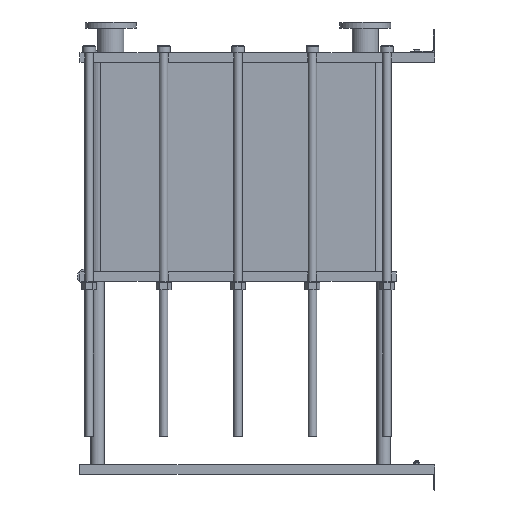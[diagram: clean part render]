
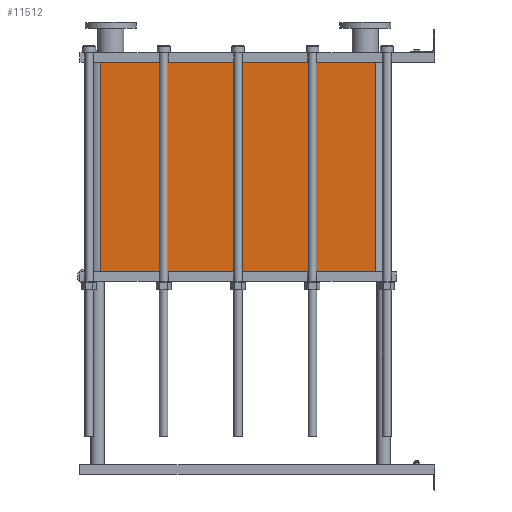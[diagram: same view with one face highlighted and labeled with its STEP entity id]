
A CAD part, left-side view. The second image highlights one B-rep face of the part: STEP entity #11512.
In plain terms, the highlighted planar face has unit normal (-1, 0, 0).
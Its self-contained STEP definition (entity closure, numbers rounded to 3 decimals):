
#1129=LINE('',#23232,#2102);
#1130=LINE('',#23236,#2103);
#1131=LINE('',#23238,#2104);
#1132=LINE('',#23239,#2105);
#2102=VECTOR('',#15887,10.);
#2103=VECTOR('',#15892,10.);
#2104=VECTOR('',#15893,10.);
#2105=VECTOR('',#15894,10.);
#3267=FACE_OUTER_BOUND('',#4093,.T.);
#4093=EDGE_LOOP('',(#10103,#10104,#10105,#10106));
#5642=VERTEX_POINT('',#23229);
#5643=VERTEX_POINT('',#23231);
#5644=VERTEX_POINT('',#23235);
#5645=VERTEX_POINT('',#23237);
#7159=EDGE_CURVE('',#5643,#5642,#1129,.T.);
#7161=EDGE_CURVE('',#5642,#5644,#1130,.T.);
#7162=EDGE_CURVE('',#5645,#5644,#1131,.T.);
#7163=EDGE_CURVE('',#5645,#5643,#1132,.T.);
#10103=ORIENTED_EDGE('',*,*,#7161,.T.);
#10104=ORIENTED_EDGE('',*,*,#7162,.F.);
#10105=ORIENTED_EDGE('',*,*,#7163,.T.);
#10106=ORIENTED_EDGE('',*,*,#7159,.T.);
#10857=PLANE('',#12751);
#11512=ADVANCED_FACE('',(#3267),#10857,.T.);
#12751=AXIS2_PLACEMENT_3D('',#23234,#15890,#15891);
#15887=DIRECTION('',(0.,0.,-1.));
#15890=DIRECTION('center_axis',(-1.,0.,0.));
#15891=DIRECTION('ref_axis',(0.,1.,0.));
#15892=DIRECTION('',(0.,-1.,0.));
#15893=DIRECTION('',(0.,0.,-1.));
#15894=DIRECTION('',(0.,1.,0.));
#23229=CARTESIAN_POINT('',(-200.,1414.,-886.65));
#23231=CARTESIAN_POINT('',(-200.,1414.,0.));
#23232=CARTESIAN_POINT('',(-200.,1414.,0.));
#23234=CARTESIAN_POINT('Origin',(-200.,248.,0.));
#23235=CARTESIAN_POINT('',(-200.,248.,-886.65));
#23236=CARTESIAN_POINT('',(-200.,539.5,-886.65));
#23237=CARTESIAN_POINT('',(-200.,248.,0.));
#23238=CARTESIAN_POINT('',(-200.,248.,0.));
#23239=CARTESIAN_POINT('',(-200.,248.,0.));
